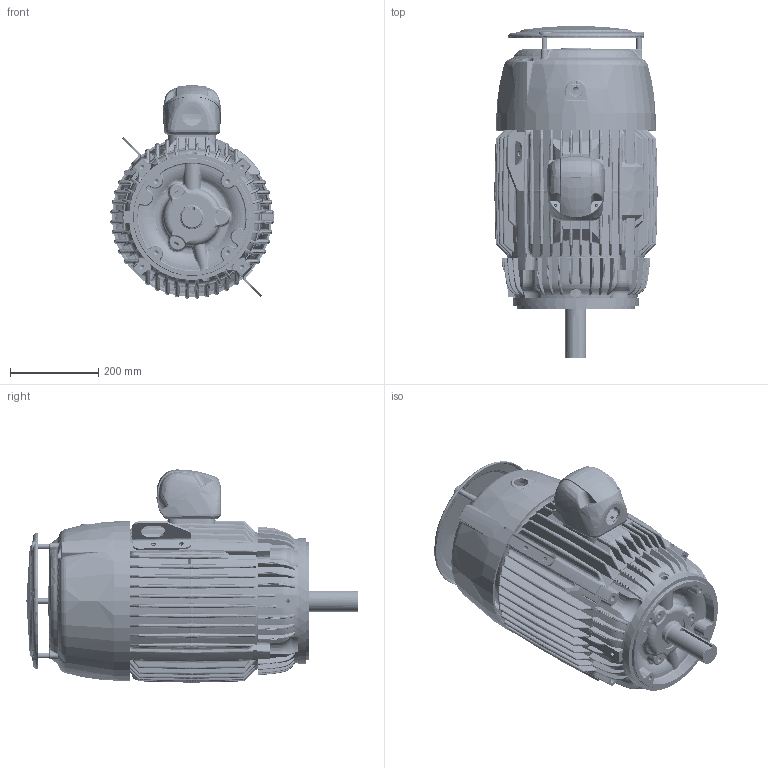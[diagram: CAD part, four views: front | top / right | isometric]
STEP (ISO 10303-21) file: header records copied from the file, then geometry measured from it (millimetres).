
FILE_DESCRIPTION((''),'2;1');
FILE_NAME('280_VNT_ASM_ASM','2014-07-18T',('emd2341'),('Nidec Motor Corporation'),'PRO/ENGINEER BY PARAMETRIC TECHNOLOGY CORPORATION, 2013150','PRO/ENGINEER BY PARAMETRIC TECHNOLOGY CORPORATION, 2013150','');
FILE_SCHEMA(('CONFIG_CONTROL_DESIGN'));
Length unit declared in the file: inch
Products named in the file (12): 0945029-006; 0724939; 0116263; 0438980; 0645672-001; 0075957; 0075958; 2022432; 0169739-SPA; 2020253; 2020046; 280_VNT_ASM_ASM
Assembly tree (14 placements, depth 2):
  280_VNT_ASM_ASM
    0945029-006
    0724939
    0116263
    0438980
    0645672-001
    0075957
    0075958
    2022432
    0169739-SPA  x3
    2020253
    2020046  x2
Bounding box: 370.87 x 753.09 x 484.22 mm (x, y, z)
Volume: 13799312.7 mm3; surface area: 3080448 mm2
Topology: 16 solids, 16 shells, 4238 faces, 10623 edges, 6387 vertices
Faces by surface type: bspline 1667, plane 819, cylinder 588, torus 481, cone 455, extrusion 129, sphere 99
Entity records: 206778 total; most frequent: CARTESIAN_POINT 120655, ORIENTED_EDGE 20926, DIRECTION 13669, EDGE_CURVE 10463, VERTEX_POINT 6327, AXIS2_PLACEMENT_3D 5730, B_SPLINE_CURVE_WITH_KNOTS 5210, EDGE_LOOP 4422
